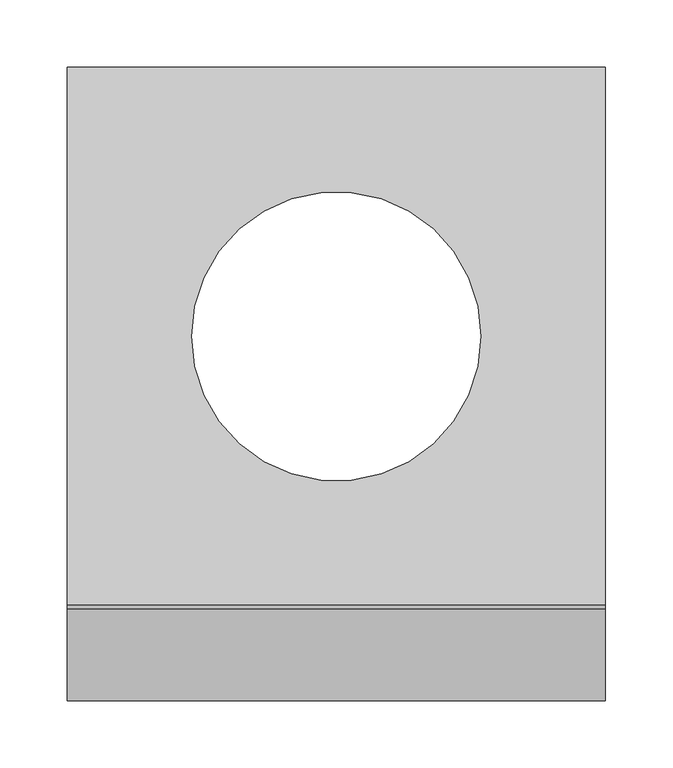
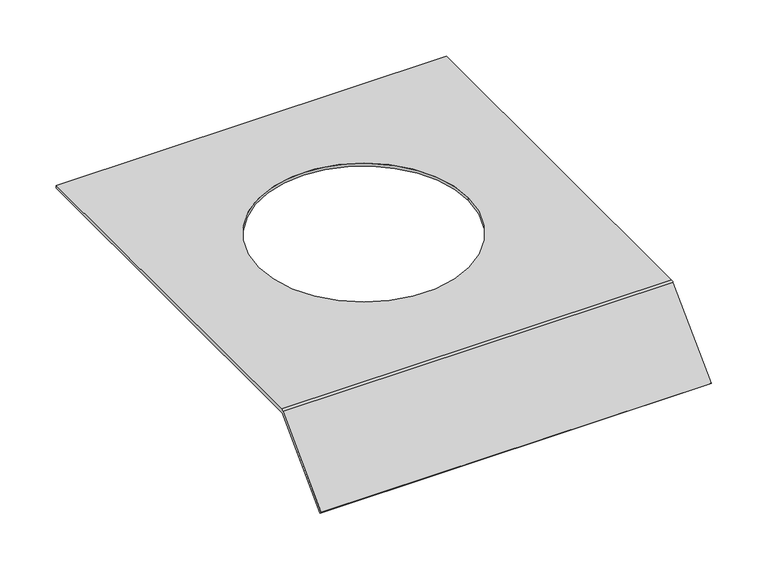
"""IFC4 building model written with IfcOpenShell, lengths in millimetres: proxy geometry, Electrical_Installation_Hager_Covers-With-Installation-Opening-R06 : Electrical_Installation_Hager_Covers-With-Installation-Opening-R06."""

from ifc_helpers import new_model, si_unit, frame, origin, place, context, project, spatial, polyline, circle_curve, source, transform, mapped, element, save
from ifc_brep_helpers import plane_surface, cylinder_surface, revolved_surface, advanced_brep


def electrical_fixtures_3be69e12(model_context):
    return source(origin(), model_context, "Body", "AdvancedBrep", [
        advanced_brep(
        [(0.0, 200.0, 40.5), (0.0, 200.0, 37.5), (0.0, -199.8229541, 37.5), (0.0, -200.8322972, 37.0819164), (0.0, -268.712807, -30.7985934), (0.0, -270.8341273, -28.6772731), (0.0, -202.8206472, 39.336207), (0.0, -200.0110025, 40.5), (400.0, 200.0, 40.5), (400.0, -200.0110025, 40.5), (400.0, -202.8206472, 39.336207), (400.0, -270.8341273, -28.6772731), (400.0, -268.712807, -30.7985934), (400.0, -200.8322972, 37.0819164), (400.0, -199.8229541, 37.5), (400.0, 200.0, 37.5), (92.5, 0.0, 37.5), (307.5, 0.0, 37.5), (307.5, 0.0, 40.5), (92.5, 0.0, 40.5)],
        [
            (0, 1),
            (1, 2),
            (2, 3, circle_curve(frame((0.0, -199.8229541, 36.0725733), z_axis=(1.0, 0.0, 0.0), x_axis=(0.0, 1.0, 0.0)), 1.4274267)),
            (3, 4),
            (4, 5),
            (5, 6),
            (6, 7, circle_curve(frame((0.0, -200.0110025, 36.5265623), z_axis=(-1.0, 0.0, 0.0), x_axis=(0.0, 1.0, 0.0)), 3.9734377)),
            (7, 0),
            (8, 9),
            (9, 10, circle_curve(frame((400.0, -200.0110025, 36.5265623), z_axis=(1.0, 0.0, 0.0), x_axis=(0.0, 1.0, 0.0)), 3.9734377)),
            (10, 11),
            (11, 12),
            (12, 13),
            (13, 14, circle_curve(frame((400.0, -199.8229541, 36.0725733), z_axis=(-1.0, 0.0, 0.0), x_axis=(0.0, 1.0, 0.0)), 1.4274267)),
            (14, 15),
            (15, 8),
            (0, 8),
            (15, 1),
            (14, 2),
            (16, 17, circle_curve(frame((200.0, 0.0, 37.5), z_axis=(0.0, 0.0, 1.0), x_axis=(1.0, 0.0, 0.0)), 107.5)),
            (17, 16, circle_curve(frame((200.0, 0.0, 37.5), z_axis=(0.0, 0.0, 1.0), x_axis=(1.0, 0.0, 0.0)), 107.5)),
            (13, 3),
            (12, 4),
            (11, 5),
            (10, 6),
            (9, 7),
            (18, 19, circle_curve(frame((200.0, 0.0, 40.5), z_axis=(0.0, 0.0, -1.0), x_axis=(1.0, 0.0, 0.0)), 107.5)),
            (19, 18, circle_curve(frame((200.0, 0.0, 40.5), z_axis=(0.0, 0.0, -1.0), x_axis=(1.0, 0.0, 0.0)), 107.5)),
            (16, 19),
            (18, 17),
        ],
        [
            plane_surface(frame((0.0, 0.3269864, 15.0), z_axis=(-1.0, 0.0, 0.0), x_axis=(0.0, 0.0, 1.0))),
            plane_surface(frame((400.0, 0.3269864, 15.0), z_axis=(1.0, 0.0, 0.0), x_axis=(0.0, 0.0, 1.0))),
            plane_surface(frame((0.0, 200.0, 40.5), z_axis=(0.0, 1.0, 0.0), x_axis=(1.0, 0.0, 0.0))),
            plane_surface(frame((0.0, 200.0, 37.5), z_axis=(0.0, 0.0, -1.0), x_axis=(1.0, 0.0, 0.0))),
            revolved_surface(polyline([(400.0, -198.3955274, 36.0725733), (0.0, -198.3955274, 36.0725733)]), (0.0, -199.8229541, 36.0725733), (1.0, 0.0, 0.0)),
            plane_surface(frame((0.0, -200.8322972, 37.0819164), z_axis=(0.0, 0.7071067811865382, -0.7071067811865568), x_axis=(1.0, 0.0, 0.0))),
            plane_surface(frame((0.0, -268.712807, -30.7985934), z_axis=(0.0, -0.7071067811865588, -0.7071067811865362), x_axis=(1.0, 0.0, 0.0))),
            plane_surface(frame((0.0, -270.8341273, -28.6772731), z_axis=(0.0, -0.7071067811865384, 0.7071067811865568), x_axis=(1.0, 0.0, 0.0))),
            cylinder_surface(frame((0.0, -200.0110025, 36.5265623), z_axis=(-1.0, 0.0, 0.0), x_axis=(0.0, 1.0, 0.0)), 3.9734377),
            plane_surface(frame((0.0, -200.0110025, 40.5), z_axis=(0.0, 0.0, 1.0), x_axis=(1.0, 0.0, 0.0))),
            revolved_surface(polyline([(307.5, 0.0, 40.5), (307.5, 0.0, 37.5)]), (200.0, 0.0, 0.0), (0.0, 0.0, 1.0)),
        ],
        [
            (0, [[1, 2, 3, 4, 5, 6, 7, 8]]),
            (1, [[9, 10, 11, 12, 13, 14, 15, 16]]),
            (2, [[-1, 17, -16, 18]]),
            (3, [[-2, -18, -15, 19], [20, 21]]),
            (4, [[-3, -19, -14, 22]]),
            (5, [[-4, -22, -13, 23]]),
            (6, [[-5, -23, -12, 24]]),
            (7, [[-6, -24, -11, 25]]),
            (8, [[-7, -25, -10, 26]]),
            (9, [[-8, -26, -9, -17], [27, 28]]),
            (10, [[29, -27, 30, -20]]),
            (10, [[-29, -21, -30, -28]]),
        ],
    ),
    ])


if __name__ == "__main__":
    model = new_model("IFC4")
    model_context = context("Model", 3, world=origin())
    ifc_project = project(units=[si_unit("LENGTHUNIT", "METRE", prefix="MILLI")], contexts=[model_context])
    site = spatial("IfcSite", under=ifc_project)
    building = spatial("IfcBuilding", under=site)
    placement = place(None, origin())
    electrical_fixtures_shape = electrical_fixtures_3be69e12(model_context)
    element("IfcBuildingElementProxy", 1, Name="Electrical_Installation_Hager_Covers-With-Installation-Opening-R06 : Electrical_Installation_Hager_Covers-With-Installation-Opening-R06", ObjectType="Electrical_Installation_Hager_Covers-With-Installation-Opening-R06 : Electrical_Installation_Hager_Covers-With-Installation-Opening-R06", at=placement, inside=building, context=model_context, shape_type="MappedRepresentation", body=[
        mapped(electrical_fixtures_shape, transform((0.0, 0.0, 0.0), x_axis=(1.0, 0.0, 0.0), y_axis=(0.0, 1.0, 0.0), z_axis=(0.0, 0.0, 1.0))),
    ])
    save(model, "model.ifc")
